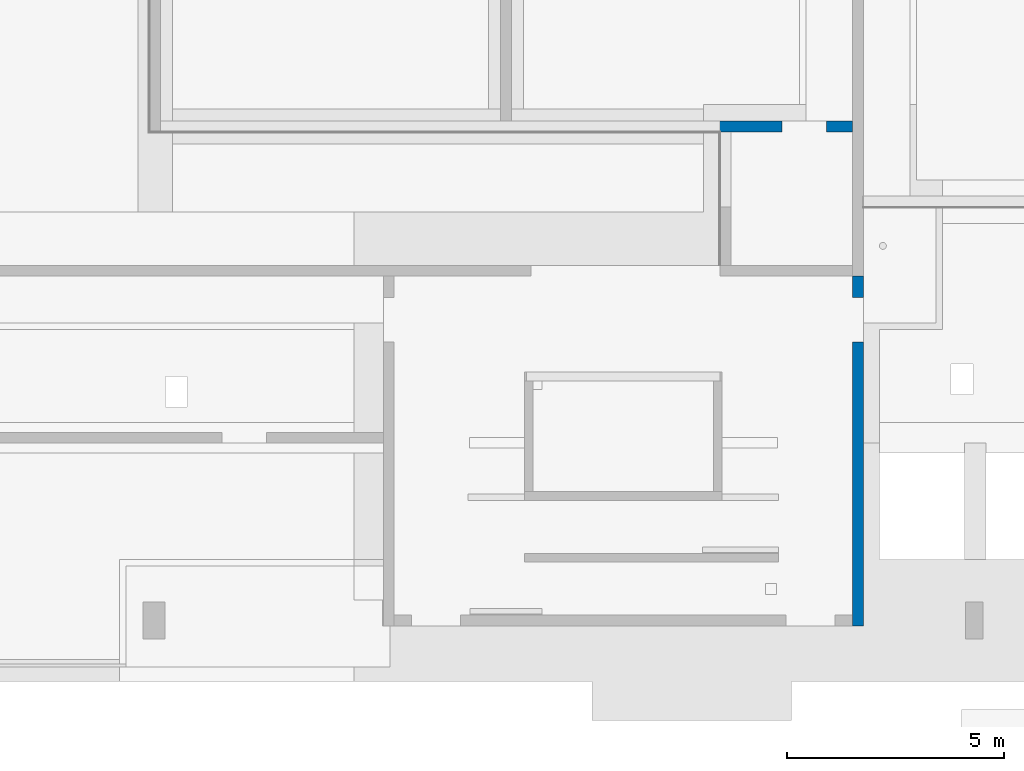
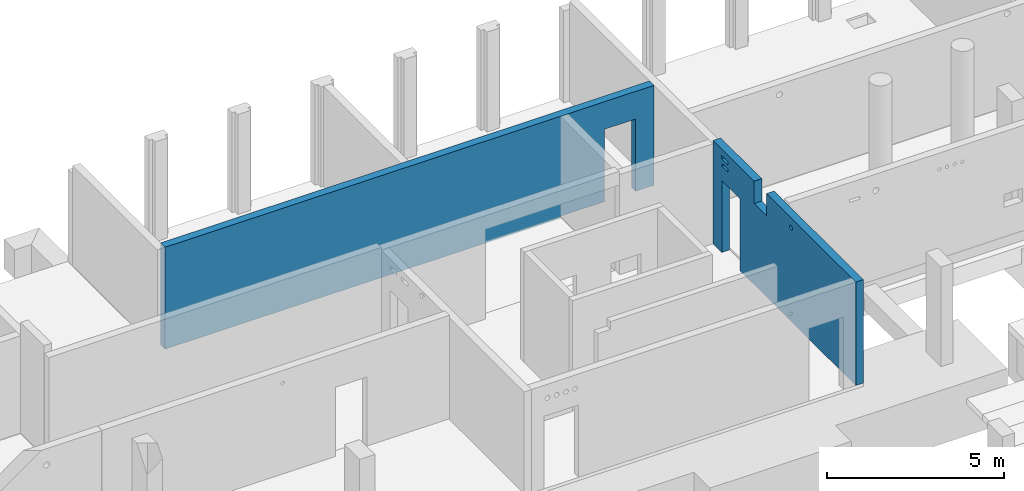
# One storey, part 60 of 60: 2 walls.
"""IFC2X3 building model written with IfcOpenShell, lengths in millimetres."""

from ifc_helpers import new_model, entity, si_unit, converted_unit, derived_unit, direction, frame, origin, place, context, subcontext, project, spatial, faceted_brep, material, layer, layer_set, type_object, element, save


model = new_model("IFC2X3")

# Units and contexts
model_context = context("Model", 3, precision=0.01, world=origin(), true_north=direction((6.12303176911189e-17, 1.0)))
body_context = subcontext(model_context, "Body", "Model", "MODEL_VIEW")
ifc_project = project(units=[si_unit("LENGTHUNIT", "METRE", prefix="MILLI"), si_unit("AREAUNIT", "SQUARE_METRE"), si_unit("VOLUMEUNIT", "CUBIC_METRE"), converted_unit("PLANEANGLEUNIT", "DEGREE", entity("IfcRatioMeasure", 0.0174532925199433), si_unit("PLANEANGLEUNIT", "RADIAN"), dimensions=[0, 0, 0, 0, 0, 0, 0]), si_unit("MASSUNIT", "GRAM", prefix="KILO"), derived_unit("MASSDENSITYUNIT", [(si_unit("MASSUNIT", "GRAM", prefix="KILO"), 1), (si_unit("LENGTHUNIT", "METRE"), -3)]), si_unit("TIMEUNIT", "SECOND"), si_unit("FREQUENCYUNIT", "HERTZ"), si_unit("THERMODYNAMICTEMPERATUREUNIT", "DEGREE_CELSIUS"), derived_unit("THERMALTRANSMITTANCEUNIT", [(si_unit("MASSUNIT", "GRAM", prefix="KILO"), 1), (si_unit("THERMODYNAMICTEMPERATUREUNIT", "KELVIN"), -1), (si_unit("TIMEUNIT", "SECOND"), -3)]), derived_unit("VOLUMETRICFLOWRATEUNIT", [(si_unit("LENGTHUNIT", "METRE"), 3), (si_unit("TIMEUNIT", "SECOND"), -1)]), si_unit("ELECTRICCURRENTUNIT", "AMPERE"), si_unit("ELECTRICVOLTAGEUNIT", "VOLT"), si_unit("POWERUNIT", "WATT"), si_unit("FORCEUNIT", "NEWTON", prefix="KILO"), si_unit("ILLUMINANCEUNIT", "LUX"), si_unit("LUMINOUSFLUXUNIT", "LUMEN"), si_unit("LUMINOUSINTENSITYUNIT", "CANDELA"), derived_unit("USERDEFINED", [(si_unit("MASSUNIT", "GRAM", prefix="KILO"), -1), (si_unit("LENGTHUNIT", "METRE"), -2), (si_unit("TIMEUNIT", "SECOND"), 3), (si_unit("LUMINOUSFLUXUNIT", "LUMEN"), 1)]), derived_unit("LINEARVELOCITYUNIT", [(si_unit("LENGTHUNIT", "METRE"), 1), (si_unit("TIMEUNIT", "SECOND"), -1)]), si_unit("PRESSUREUNIT", "PASCAL"), derived_unit("USERDEFINED", [(si_unit("LENGTHUNIT", "METRE"), -2), (si_unit("MASSUNIT", "GRAM", prefix="KILO"), 1), (si_unit("TIMEUNIT", "SECOND"), -2)])], contexts=[model_context])

# Site, building, storey
site_placement = place(None, origin())
site = spatial("IfcSite", under=ifc_project, at=site_placement, Name="Default", CompositionType="ELEMENT")
building_placement = place(site_placement, origin())
building = spatial("IfcBuilding", under=site, at=building_placement, Name="niet gebruiken", CompositionType="ELEMENT")
storey_placement = place(building_placement, origin())
storey = spatial("IfcBuildingStorey", under=building, at=storey_placement, Name="00 begane grond", CompositionType="ELEMENT", Elevation=0.0)

# Walls
ifc_material = material(Name="NLRS_f2_beton ihwg")
ifc_layer = layer(ifc_material, 250.0)
ifc_layer_set = layer_set([ifc_layer], Name="Basic Wall:NLRS_22.21_WA_beton ihwg d=250_gen")
wall_type = type_object("IfcWallType", Name="Basic Wall:NLRS_22.21_WA_beton ihwg d=250_gen", PredefinedType="STANDARD", material=ifc_layer_set)
wall_1_placement = place(storey_placement, frame((97200.0, 44906.0, -90.0), z_axis=(0.0, 0.0, 1.0), x_axis=(0.0, -1.0, 0.0)))
element("IfcWall", 1, at=wall_1_placement, inside=storey, type_object=wall_type, Name="Basic Wall:NLRS_22.21_WA_beton ihwg d=250_gen", ObjectType="Basic Wall:NLRS_22.21_WA_beton ihwg d=250_gen", context=body_context, shape_type="Brep", body=[
    faceted_brep([(7800.0, -125.0, 0.0), (1520.0, -125.0, 0.0), (1520.0, 125.0, 0.0), (8050.0, 125.0, 0.0), (8050.0, -125.0, 0.0), (495.0, -125.0, 0.0), (0.0, -125.0, 0.0), (0.0, 125.0, 0.0), (495.0, 125.0, 0.0), (0.0, -105.0, 3560.0), (0.0, -125.0, 3560.0), (2320.0, -125.0, 3560.0), (2320.0, 125.0, 3560.0), (0.0, 125.0, 3560.0), (7800.0, -125.0, 3560.0), (8050.0, -125.0, 3560.0), (8050.0, 125.0, 3560.0), (3020.0, 125.0, 3560.0), (3020.0, -125.0, 3560.0), (495.0, -125.0, 2470.0), (0.0, -125.0, 3440.0), (500.0, -125.0, 2970.0), (840.0, -125.0, 2970.0), (1520.0, -125.0, 2470.0), (840.0, -125.0, 3070.0), (855.0, -125.0, 3210.0), (2320.0, -125.0, 2790.0), (3020.0, -125.0, 2790.0), (4400.0, -125.0, 3140.0), (4420.7055236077, -125.0, 3142.72593389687), (4440.0, -125.0, 3150.71796769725), (4456.56854249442, -125.0, 3163.43145750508), (8050.0, -125.0, 2950.0), (4469.28203230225, -125.0, 3180.0), (4477.27406610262, -125.0, 3199.2944763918), (4480.0, -125.0, 3220.0), (4477.27406610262, -125.0, 3240.7055236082), (4469.28203230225, -125.0, 3260.0), (4456.56854249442, -125.0, 3276.56854249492), (4440.0, -125.0, 3289.28203230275), (4420.7055236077, -125.0, 3297.27406610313), (4400.0, -125.0, 3300.0), (4320.0, -125.0, 3220.0), (4322.72593389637, -125.0, 3240.7055236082), (4330.71796769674, -125.0, 3260.0), (4343.43145750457, -125.0, 3276.56854249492), (4360.0, -125.0, 3289.28203230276), (4379.2944763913, -125.0, 3297.27406610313), (4379.29447639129, -125.0, 3142.72593389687), (4360.0, -125.0, 3150.71796769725), (4343.43145750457, -125.0, 3163.43145750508), (4330.71796769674, -125.0, 3180.0), (4322.72593389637, -125.0, 3199.2944763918), (855.0, -125.0, 3330.0), (485.0, -125.0, 3330.0), (500.0, -125.0, 3070.0), (485.0, -125.0, 3210.0), (8050.0, 125.0, 2950.0), (4456.56854249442, 125.0, 3163.43145750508), (4469.28203230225, 125.0, 3180.0), (4477.27406610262, 125.0, 3199.2944763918), (4480.0, 125.0, 3220.0), (4440.0, 125.0, 3150.71796769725), (4420.7055236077, 125.0, 3142.72593389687), (4400.0, 125.0, 3140.0), (3020.0, 125.0, 2790.0), (2320.0, 125.0, 2790.0), (1520.0, 125.0, 2470.0), (855.0, 125.0, 3210.0), (840.0, 125.0, 3070.0), (840.0, 125.0, 2970.0), (495.0, 125.0, 2470.0), (500.0, 125.0, 2970.0), (0.0, 125.0, 3440.0), (500.0, 125.0, 3070.0), (485.0, 125.0, 3210.0), (485.0, 125.0, 3330.0), (855.0, 125.0, 3330.0), (4379.29447639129, 125.0, 3142.72593389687), (4360.0, 125.0, 3150.71796769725), (4343.43145750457, 125.0, 3163.43145750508), (4330.71796769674, 125.0, 3180.0), (4322.72593389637, 125.0, 3199.2944763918), (4320.0, 125.0, 3220.0), (4400.0, 125.0, 3300.0), (4379.2944763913, 125.0, 3297.27406610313), (4360.0, 125.0, 3289.28203230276), (4343.43145750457, 125.0, 3276.56854249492), (4330.71796769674, 125.0, 3260.0), (4322.72593389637, 125.0, 3240.7055236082), (4477.27406610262, 125.0, 3240.7055236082), (4469.28203230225, 125.0, 3260.0), (4456.56854249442, 125.0, 3276.56854249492), (4440.0, 125.0, 3289.28203230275), (4420.7055236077, 125.0, 3297.27406610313)], [[[0, 1, 2, 3, 4]], [[5, 6, 7, 8]], [[9, 10, 11, 12, 13]], [[14, 15, 16, 17, 18]], [[6, 5, 19]], [[20, 6, 19]], [[20, 19, 21]], [[22, 21, 19]], [[23, 22, 19]], [[24, 22, 23]], [[25, 24, 23]], [[11, 25, 23]], [[11, 23, 26]], [[23, 1, 26]], [[26, 1, 27]], [[27, 1, 28]], [[28, 1, 0]], [[29, 28, 0]], [[29, 0, 30]], [[0, 31, 30]], [[0, 32, 31]], [[0, 4, 32]], [[33, 31, 32]], [[34, 33, 32]], [[32, 14, 34]], [[32, 15, 14]], [[35, 34, 14]], [[36, 35, 14]], [[37, 36, 14]], [[37, 14, 38]], [[38, 14, 39]], [[39, 14, 40]], [[41, 40, 14]], [[41, 14, 18]], [[42, 18, 27]], [[42, 43, 18]], [[18, 43, 44]], [[18, 44, 45]], [[45, 46, 18]], [[47, 41, 18]], [[46, 47, 18]], [[48, 27, 28]], [[49, 27, 48]], [[50, 27, 49]], [[51, 27, 50]], [[27, 51, 52]], [[27, 52, 42]], [[53, 25, 11]], [[53, 11, 10]], [[10, 20, 54]], [[10, 54, 53]], [[25, 55, 24]], [[56, 55, 25]], [[54, 20, 56]], [[56, 20, 55]], [[20, 21, 55]], [[57, 3, 58]], [[58, 59, 57]], [[59, 60, 57]], [[57, 60, 61]], [[61, 16, 57]], [[3, 62, 58]], [[63, 62, 3]], [[64, 63, 3]], [[3, 2, 64]], [[65, 64, 2]], [[66, 65, 2]], [[2, 67, 66]], [[66, 67, 12]], [[12, 67, 68]], [[69, 68, 67]], [[70, 69, 67]], [[70, 67, 71]], [[72, 70, 71]], [[72, 71, 73]], [[73, 71, 7]], [[71, 8, 7]], [[73, 74, 72]], [[75, 74, 73]], [[73, 76, 75]], [[76, 73, 13]], [[76, 13, 77]], [[77, 13, 12]], [[68, 77, 12]], [[74, 75, 68]], [[69, 74, 68]], [[65, 78, 64]], [[79, 78, 65]], [[65, 80, 79]], [[65, 81, 80]], [[81, 65, 82]], [[82, 65, 83]], [[17, 83, 65]], [[16, 84, 17]], [[84, 85, 17]], [[86, 17, 85]], [[86, 87, 17]], [[87, 88, 17]], [[83, 17, 89]], [[89, 17, 88]], [[61, 90, 16]], [[90, 91, 16]], [[92, 16, 91]], [[16, 92, 93]], [[16, 93, 94]], [[94, 84, 16]], [[20, 10, 9, 13, 73, 7, 6]], [[5, 8, 71, 19]], [[23, 19, 71, 67]], [[1, 23, 67, 2]], [[32, 4, 3, 57, 16, 15]], [[53, 54, 76, 77]], [[56, 25, 68, 75]], [[25, 53, 77, 68]], [[75, 76, 54, 56]], [[26, 27, 65, 66]], [[27, 18, 17, 65]], [[26, 66, 12, 11]], [[24, 55, 74, 69]], [[21, 22, 70, 72]], [[22, 24, 69, 70]], [[72, 74, 55, 21]], [[33, 34, 60, 59]], [[33, 59, 58, 31]], [[29, 30, 62, 63]], [[58, 62, 30, 31]], [[28, 29, 63, 64]], [[35, 61, 60, 34]], [[49, 48, 78, 79]], [[49, 79, 80, 50]], [[52, 51, 81, 82]], [[80, 81, 51, 50]], [[42, 52, 82, 83]], [[64, 78, 48, 28]], [[45, 44, 88, 87]], [[47, 46, 86, 85]], [[87, 86, 46, 45]], [[41, 47, 85, 84]], [[83, 89, 43, 42]], [[88, 44, 43, 89]], [[39, 40, 94, 93]], [[39, 93, 92, 38]], [[36, 37, 91, 90]], [[92, 91, 37, 38]], [[35, 36, 90, 61]], [[84, 94, 40, 41]]]),
])
wall_2_placement = place(storey_placement, frame((97075.0, 48351.0, -160.0), z_axis=(0.0, 0.0, 1.0), x_axis=(-1.0, 0.0, 0.0)))
element("IfcWall", 2, at=wall_2_placement, inside=storey, type_object=wall_type, Name="Basic Wall:NLRS_22.21_WA_beton ihwg d=250_gen", ObjectType="Basic Wall:NLRS_22.21_WA_beton ihwg d=250_gen", context=body_context, shape_type="Brep", body=[
    faceted_brep([(15925.0, -125.0, 0.0), (15925.0, -125.0, 3510.0), (13050.0, -125.0, 3510.0), (9850.0, -125.0, 3510.0), (8450.0, -125.0, 3510.0), (8100.0, -125.0, 3510.0), (7850.0, -125.0, 3510.0), (7500.0, -125.0, 3510.0), (6070.0, -125.0, 3510.0), (2870.0, -125.0, 3510.0), (0.0, -125.0, 3510.0), (0.0, -125.0, 70.0), (600.0, -125.0, 70.0), (600.0, -125.0, 2562.0), (1622.0, -125.0, 2562.0), (1622.0, -125.0, 70.0), (3050.0, -125.0, 70.0), (3050.0, -125.0, 0.0), (13775.0, -125.0, 960.0), (13895.0, -125.0, 960.0), (13895.0, -125.0, 70.0), (13775.0, -125.0, 70.0), (14335.0, -125.0, 960.0), (14455.0, -125.0, 960.0), (14455.0, -125.0, 70.0), (14335.0, -125.0, 70.0), (15375.0, -125.0, 1460.0), (15575.0, -125.0, 1460.0), (15575.0, -125.0, 70.0), (15375.0, -125.0, 70.0), (15925.0, 125.0, 3510.0), (15925.0, 125.0, 0.0), (3050.0, 125.0, 0.0), (3050.0, 125.0, 70.0), (2800.0, 125.0, 70.0), (1622.0, 125.0, 70.0), (1622.0, 125.0, 2562.0), (600.0, 125.0, 2562.0), (600.0, 125.0, 70.0), (0.0, 125.0, 70.0), (0.0, 125.0, 3510.0), (2800.0, 125.0, 3510.0), (3050.0, 125.0, 3510.0), (13775.0, -85.0, 960.0), (13895.0, -85.0, 960.0), (13895.0, -85.0, 70.0), (13775.0, -85.0, 70.0), (14335.0, -85.0, 960.0), (14455.0, -85.0, 960.0), (14455.0, -85.0, 70.0), (14335.0, -85.0, 70.0), (15375.0, -85.0, 1460.0), (15575.0, -85.0, 1460.0), (15575.0, -85.0, 70.0), (15375.0, -85.0, 70.0)], [[[0, 1, 2, 3, 4, 5, 6, 7, 8, 9, 10, 11, 12, 13, 14, 15, 16, 17], [18, 19, 20, 21], [22, 23, 24, 25], [26, 27, 28, 29]], [[30, 31, 32, 33, 34, 35, 36, 37, 38, 39, 40, 41, 42]], [[31, 0, 17, 32]], [[1, 0, 31, 30]], [[10, 9, 8, 7, 6, 5, 4, 3, 2, 1, 30, 42, 41, 40]], [[37, 13, 12, 38]], [[13, 37, 36, 14]], [[14, 36, 35, 15]], [[10, 40, 39, 11]], [[12, 11, 39, 38]], [[16, 33, 32, 17]], [[18, 43, 44, 19]], [[20, 45, 46, 21]], [[19, 44, 45, 20]], [[44, 43, 46, 45]], [[43, 18, 21, 46]], [[22, 47, 48, 23]], [[24, 49, 50, 25]], [[23, 48, 49, 24]], [[48, 47, 50, 49]], [[47, 22, 25, 50]], [[26, 51, 52, 27]], [[28, 53, 54, 29]], [[27, 52, 53, 28]], [[52, 51, 54, 53]], [[51, 26, 29, 54]], [[33, 16, 15, 35, 34]]]),
])

save(model, "model.ifc")
